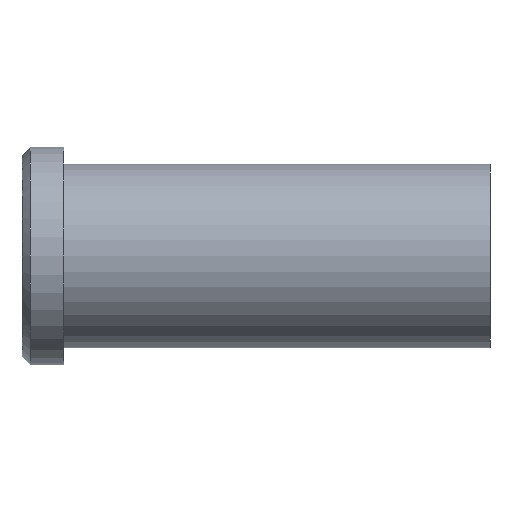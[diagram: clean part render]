
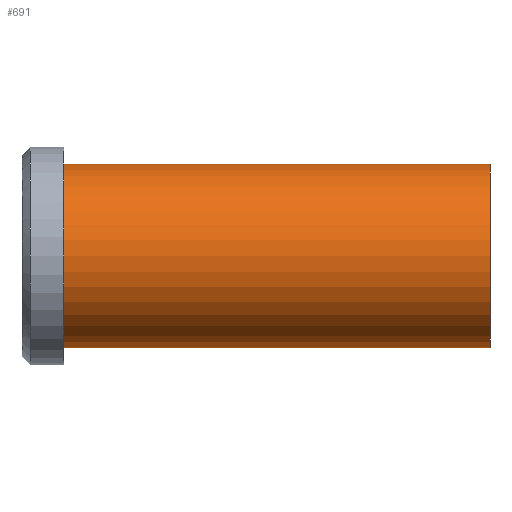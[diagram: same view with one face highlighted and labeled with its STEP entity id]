
A CAD part, front view. The second image highlights one B-rep face of the part: STEP entity #691.
In plain terms, the highlighted cylindrical face has radius 11 mm (diameter 22 mm), a partial arc.
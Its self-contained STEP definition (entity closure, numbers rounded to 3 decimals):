
#501=CARTESIAN_POINT('Vertex',(0.,0.,-11.)) ;
#506=CARTESIAN_POINT('Axis2P3D Location',(0.,0.,0.)) ;
#510=CARTESIAN_POINT('Vertex',(0.,-11.,0.)) ;
#513=CARTESIAN_POINT('Axis2P3D Location',(0.,0.,0.)) ;
#517=CARTESIAN_POINT('Vertex',(0.,0.,11.)) ;
#631=CARTESIAN_POINT('Line Origine',(51.,0.,11.)) ;
#635=CARTESIAN_POINT('Vertex',(51.,0.,11.)) ;
#649=CARTESIAN_POINT('Vertex',(51.,0.,-11.)) ;
#652=CARTESIAN_POINT('Line Origine',(51.,0.,-11.)) ;
#666=CARTESIAN_POINT('Axis2P3D Location',(51.,0.,0.)) ;
#671=CARTESIAN_POINT('Axis2P3D Location',(51.,0.,0.)) ;
#675=CARTESIAN_POINT('Vertex',(51.,-11.,0.)) ;
#678=CARTESIAN_POINT('Axis2P3D Location',(51.,0.,0.)) ;
#507=DIRECTION('Axis2P3D Direction',(1.,0.,-0.)) ;
#514=DIRECTION('Axis2P3D Direction',(1.,0.,-0.)) ;
#632=DIRECTION('Vector Direction',(-1.,0.,0.)) ;
#653=DIRECTION('Vector Direction',(-1.,0.,0.)) ;
#667=DIRECTION('Axis2P3D Direction',(-1.,-0.,-0.)) ;
#668=DIRECTION('Axis2P3D XDirection',(0.,0.,-1.)) ;
#672=DIRECTION('Axis2P3D Direction',(-1.,-0.,-0.)) ;
#679=DIRECTION('Axis2P3D Direction',(-1.,-0.,-0.)) ;
#508=AXIS2_PLACEMENT_3D('Circle Axis2P3D',#506,#507,$) ;
#515=AXIS2_PLACEMENT_3D('Circle Axis2P3D',#513,#514,$) ;
#669=AXIS2_PLACEMENT_3D('Cylinder Axis2P3D',#666,#667,#668) ;
#673=AXIS2_PLACEMENT_3D('Circle Axis2P3D',#671,#672,$) ;
#680=AXIS2_PLACEMENT_3D('Circle Axis2P3D',#678,#679,$) ;
#684=ORIENTED_EDGE('',*,*,#656,.T.) ;
#685=ORIENTED_EDGE('',*,*,#677,.F.) ;
#686=ORIENTED_EDGE('',*,*,#682,.F.) ;
#687=ORIENTED_EDGE('',*,*,#637,.T.) ;
#688=ORIENTED_EDGE('',*,*,#519,.T.) ;
#689=ORIENTED_EDGE('',*,*,#512,.T.) ;
#633=VECTOR('Line Direction',#632,1.) ;
#654=VECTOR('Line Direction',#653,1.) ;
#691=ADVANCED_FACE('353-16X56',(#690),#670,.T.) ;
#509=CIRCLE('generated circle',#508,11.) ;
#516=CIRCLE('generated circle',#515,11.) ;
#674=CIRCLE('generated circle',#673,11.) ;
#681=CIRCLE('generated circle',#680,11.) ;
#670=CYLINDRICAL_SURFACE('generated cylinder',#669,11.) ;
#512=EDGE_CURVE('',#511,#502,#509,.T.) ;
#519=EDGE_CURVE('',#518,#511,#516,.T.) ;
#637=EDGE_CURVE('',#636,#518,#634,.T.) ;
#656=EDGE_CURVE('',#502,#650,#655,.F.) ;
#677=EDGE_CURVE('',#676,#650,#674,.F.) ;
#682=EDGE_CURVE('',#636,#676,#681,.F.) ;
#683=EDGE_LOOP('',(#684,#685,#686,#687,#688,#689)) ;
#690=FACE_OUTER_BOUND('',#683,.T.) ;
#634=LINE('Line',#631,#633) ;
#655=LINE('Line',#652,#654) ;
#502=VERTEX_POINT('',#501) ;
#511=VERTEX_POINT('',#510) ;
#518=VERTEX_POINT('',#517) ;
#636=VERTEX_POINT('',#635) ;
#650=VERTEX_POINT('',#649) ;
#676=VERTEX_POINT('',#675) ;
